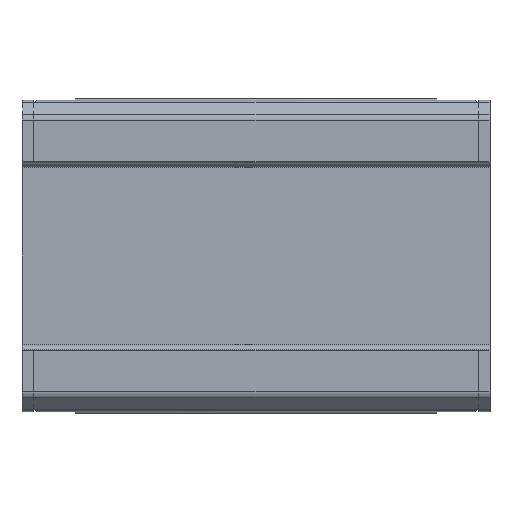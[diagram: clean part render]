
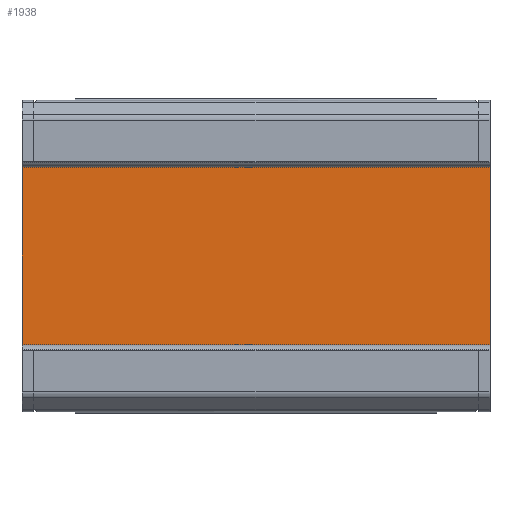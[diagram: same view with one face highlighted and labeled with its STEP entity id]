
A CAD part, front view. The second image highlights one B-rep face of the part: STEP entity #1938.
In plain terms, the highlighted planar face has unit normal (0, -1, 0).
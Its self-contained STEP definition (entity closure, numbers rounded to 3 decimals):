
#652=ORIENTED_EDGE('',*,*,#684,.F.);
#653=ORIENTED_EDGE('',*,*,#926,.F.);
#654=ORIENTED_EDGE('',*,*,#710,.T.);
#655=ORIENTED_EDGE('',*,*,#927,.T.);
#684=EDGE_CURVE('',#952,#953,#1132,.T.);
#710=EDGE_CURVE('',#976,#975,#1152,.T.);
#926=EDGE_CURVE('',#976,#952,#1322,.T.);
#927=EDGE_CURVE('',#975,#953,#1323,.T.);
#952=VERTEX_POINT('',#2704);
#953=VERTEX_POINT('',#2706);
#975=VERTEX_POINT('',#2758);
#976=VERTEX_POINT('',#2760);
#1132=LINE('',#2705,#1340);
#1152=LINE('',#2759,#1360);
#1322=LINE('',#3209,#1530);
#1323=LINE('',#3211,#1531);
#1340=VECTOR('',#2154,1000.);
#1360=VECTOR('',#2196,1000.);
#1530=VECTOR('',#2646,1000.);
#1531=VECTOR('',#2649,1000.);
#1648=EDGE_LOOP('',(#652,#653,#654,#655));
#1770=FACE_BOUND('',#1648,.T.);
#1836=PLANE('',#2115);
#1938=ADVANCED_FACE('',(#1770),#1836,.T.);
#2115=AXIS2_PLACEMENT_3D('',#3210,#2647,#2648);
#2154=DIRECTION('',(0.,0.,1.));
#2196=DIRECTION('',(0.,0.,1.));
#2646=DIRECTION('',(-1.,0.,0.));
#2647=DIRECTION('',(0.,-1.,0.));
#2648=DIRECTION('',(0.,0.,-1.));
#2649=DIRECTION('',(-1.,0.,0.));
#2704=CARTESIAN_POINT('',(-29.75,5.5,-11.7));
#2705=CARTESIAN_POINT('',(-29.75,5.5,-11.7));
#2706=CARTESIAN_POINT('',(-29.75,5.5,11.7));
#2758=CARTESIAN_POINT('',(29.75,5.5,11.7));
#2759=CARTESIAN_POINT('',(29.75,5.5,-11.7));
#2760=CARTESIAN_POINT('',(29.75,5.5,-11.7));
#3209=CARTESIAN_POINT('',(29.75,5.5,-11.7));
#3210=CARTESIAN_POINT('',(29.75,5.5,-11.7));
#3211=CARTESIAN_POINT('',(29.75,5.5,11.7));
